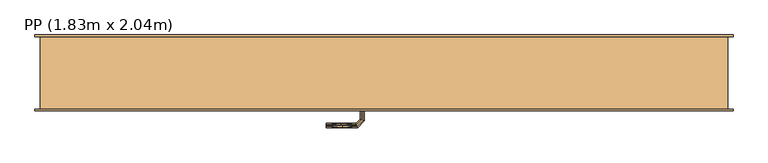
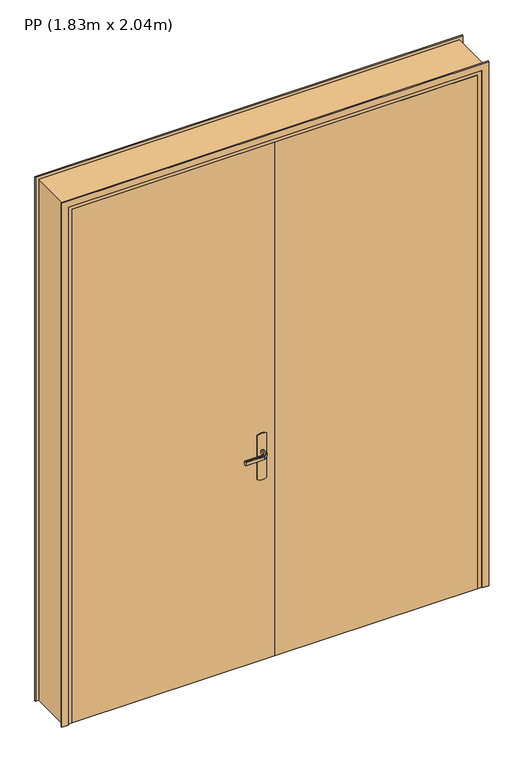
"""IFC4 building model written with IfcOpenShell, lengths in millimetres: door geometry, PP (1.83m x 2.04m)."""

from ifc_helpers import new_model, si_unit, frame, origin, origin_with_axes, place, context, project, spatial, polyline, outline, extrude, faceted_brep, source, transform, mapped, element, save


def pp_1_83m_x_2_04m_7ef19891(model_context):
    return source(origin(), model_context, "Body", "SolidModel", [
        extrude(outline(polyline([(0.0, 1985.0), (2500.0, 1985.0), (2500.0, 55.0), (0.0, 55.0), (0.0, 85.0), (2470.0, 85.0), (2470.0, 1955.0), (0.0, 1955.0), (0.0, 1985.0)])), frame((0.0, -5.0, 0.0), z_axis=(0.0, 1.0, 0.0), x_axis=(0.0, 0.0, 1.0)), (0.0, 0.0, 1.0), 5.0),
        extrude(outline(polyline([(870.0, 980.0), (1080.0, 980.0), (1083.9960169, 970.3527618), (1085.3589838, 960.0), (1083.9960169, 949.6472382), (1080.0, 940.0), (870.0, 940.0), (866.0039831, 949.6472382), (864.6410162, 960.0), (866.0039831, 970.3527618), (870.0, 980.0)])), frame((0.0, 40.0, 0.0), z_axis=(0.0, 1.0, 0.0), x_axis=(0.0, 0.0, 1.0)), (0.0, 0.0, 1.0), 5.0),
        extrude(outline(polyline([(0.0, 1985.0), (2500.0, 1985.0), (2500.0, 55.0), (0.0, 55.0), (0.0, 85.0), (2470.0, 85.0), (2470.0, 1955.0), (0.0, 1955.0), (0.0, 1985.0)])), frame((0.0, 200.0, 0.0), z_axis=(0.0, 1.0, 0.0), x_axis=(0.0, 0.0, 1.0)), (0.0, 0.0, 1.0), 5.0),
        extrude(outline(polyline([(870.0, 980.0), (1080.0, 980.0), (1083.9960169, 970.3527618), (1085.3589838, 960.0), (1083.9960169, 949.6472382), (1080.0, 940.0), (870.0, 940.0), (866.0039831, 949.6472382), (864.6410162, 960.0), (866.0039831, 970.3527618), (870.0, 980.0)])), frame((0.0, -5.0, 0.0), z_axis=(0.0, 1.0, 0.0), x_axis=(0.0, 0.0, 1.0)), (0.0, 0.0, 1.0), 5.0),
        faceted_brep([(957.9747013, -5.0, 1007.7804408), (962.0252987, -5.0, 1007.7804408), (966.0, -5.0, 1007.0), (966.0, -5.0, 993.0), (962.0252987, -5.0, 992.2195592), (957.9747013, -5.0, 992.2195592), (954.0, -5.0, 993.0), (954.0, -5.0, 1007.0), (962.0252987, -31.0045755, 1007.7804408), (966.0, -32.6509507, 1007.0), (957.9747013, -29.3267632, 1007.7804408), (944.2986025, -43.002862, 1007.7804408), (945.9764148, -47.0534593, 1007.7804408), (954.0, -27.680388, 1007.0), (954.0, -27.680388, 993.0), (957.9747013, -29.3267632, 992.2195592), (962.0252987, -31.0045755, 992.2195592), (945.9764148, -47.0534593, 992.2195592), (944.2986025, -43.002862, 992.2195592), (966.0, -32.6509507, 993.0), (947.62279, -51.0281607, 1007.0), (942.6522273, -39.0281607, 1007.0), (942.6522273, -39.0281607, 993.0), (947.62279, -51.0281607, 993.0), (859.9813594, -51.0281607, 1007.0), (859.9813594, -47.0534593, 1007.7804408), (859.9813594, -43.002862, 1007.7804408), (859.9813594, -39.0281607, 1007.0), (859.9813594, -39.0281607, 993.0), (859.9813594, -43.002862, 992.2195592), (859.9813594, -47.0534593, 992.2195592), (859.9813594, -51.0281607, 993.0), (902.1399809, -45.0281607, 1007.8786868), (907.6923028, -51.0281607, 1007.0), (901.3167933, -39.0281607, 1007.0), (901.3167933, -39.0281607, 993.0), (902.1399811, -45.0281608, 992.1213132), (907.6923104, -51.0281607, 993.0)], [[[0, 1, 2, 3, 4, 5, 6, 7]], [[2, 1, 8, 9]], [[1, 0, 10, 11, 12, 8]], [[0, 7, 13, 10]], [[14, 13, 7, 6]], [[5, 15, 14, 6]], [[5, 4, 16, 17, 18, 15]], [[3, 19, 16, 4]], [[9, 19, 3, 2]], [[9, 8, 12, 20]], [[10, 13, 21, 11]], [[22, 21, 13, 14]], [[14, 15, 18, 22]], [[16, 19, 23, 17]], [[20, 23, 19, 9]], [[24, 25, 26, 27, 28, 29, 30, 31]], [[32, 25, 33]], [[33, 25, 24]], [[33, 20, 12]], [[11, 34, 32]], [[34, 11, 21]], [[27, 26, 34]], [[32, 26, 25]], [[32, 34, 26]], [[32, 33, 12]], [[11, 32, 12]], [[21, 22, 35, 28, 27, 34]], [[36, 29, 35]], [[30, 36, 37]], [[18, 35, 22]], [[29, 28, 35]], [[30, 37, 31]], [[37, 17, 23]], [[36, 17, 37]], [[36, 18, 17]], [[36, 35, 18]], [[29, 36, 30]], [[23, 20, 33, 24, 31, 37]]]),
        extrude(outline(polyline([(1020.0, 40.0), (1020.0, 0.0), (105.0, 0.0), (105.0, 40.0), (1020.0, 40.0)])), origin_with_axes(), (0.0, 0.0, 1.0), 2450.0),
        extrude(outline(polyline([(1020.0, 40.0), (1935.0, 40.0), (1935.0, 0.0), (1020.0, 0.0), (1020.0, 40.0)])), origin_with_axes(), (0.0, 0.0, 1.0), 2450.0),
        faceted_brep([(957.9747013, 45.0, 992.2195592), (962.0252987, 45.0, 992.2195592), (966.0, 45.0, 993.0), (966.0, 45.0, 1007.0), (962.0252987, 45.0, 1007.7804408), (957.9747013, 45.0, 1007.7804408), (954.0, 45.0, 1007.0), (954.0, 45.0, 993.0), (954.0, 67.4852045, 1007.0), (954.0, 67.4852045, 993.0), (957.9747013, 69.1315797, 1007.7804408), (962.0252987, 70.8093921, 1007.7804408), (945.8389062, 86.9957845, 1007.7804408), (944.1610938, 82.9451872, 1007.7804408), (966.0, 72.4557673, 1007.0), (966.0, 72.4557673, 993.0), (962.0252987, 70.8093921, 992.2195592), (957.9747013, 69.1315797, 992.2195592), (944.1610938, 82.9451872, 992.2195592), (945.8389062, 86.9957845, 992.2195592), (942.5147186, 78.9704859, 1007.0), (942.5147186, 78.9704859, 993.0), (947.4852814, 90.9704859, 1007.0), (947.4852814, 90.9704859, 993.0), (859.9542163, 82.9451872, 1007.7804408), (859.9542163, 86.9957845, 1007.7804408), (859.9542163, 90.9704859, 1007.0), (859.9542163, 90.9704859, 993.0), (859.9542163, 86.9957845, 992.2195592), (859.9542163, 82.9451872, 992.2195592), (859.9542163, 78.9704859, 993.0), (859.9542163, 78.9704859, 1007.0), (901.2344675, 78.9704859, 1007.0), (901.2344794, 78.9704859, 993.0), (902.0576551, 84.9704859, 1007.8786868), (907.5547942, 90.9704859, 1007.0), (907.5547957, 90.9704859, 993.0), (902.0576549, 84.9704858, 992.1213132)], [[[0, 1, 2, 3, 4, 5, 6, 7]], [[8, 9, 7, 6]], [[5, 10, 8, 6]], [[5, 4, 11, 12, 13, 10]], [[3, 14, 11, 4]], [[14, 3, 2, 15]], [[2, 1, 16, 15]], [[1, 0, 17, 18, 19, 16]], [[0, 7, 9, 17]], [[20, 21, 9, 8]], [[8, 10, 13, 20]], [[14, 22, 12, 11]], [[23, 22, 14, 15]], [[15, 16, 19, 23]], [[17, 9, 21, 18]], [[24, 25, 26, 27, 28, 29, 30, 31]], [[21, 20, 32, 31, 30, 33]], [[34, 24, 32]], [[25, 34, 35]], [[13, 32, 20]], [[24, 31, 32]], [[25, 35, 26]], [[35, 12, 22]], [[34, 12, 35]], [[34, 13, 12]], [[34, 32, 13]], [[24, 34, 25]], [[22, 23, 36, 27, 26, 35]], [[37, 28, 36]], [[36, 28, 27]], [[36, 23, 19]], [[18, 33, 37]], [[33, 18, 21]], [[30, 29, 33]], [[37, 29, 28]], [[37, 33, 29]], [[37, 36, 19]], [[18, 37, 19]]]),
        faceted_brep([(1970.0, 0.0, 0.0), (1935.0, 0.0, 0.0), (1935.0, 40.0, 0.0), (1920.0, 40.0, 0.0), (1920.0, 200.0, 0.0), (1970.0, 200.0, 0.0), (1970.0, 200.0, 2485.0), (1970.0, 0.0, 2485.0), (1920.0, 200.0, 2435.0), (120.0, 200.0, 2435.0), (120.0, 200.0, 0.0), (70.0, 200.0, 0.0), (70.0, 200.0, 2485.0), (1920.0, 40.0, 2435.0), (1935.0, 40.0, 2450.0), (105.0, 40.0, 2450.0), (105.0, 40.0, 0.0), (120.0, 40.0, 0.0), (120.0, 40.0, 2435.0), (1935.0, 0.0, 2450.0), (70.0, 0.0, 2485.0), (70.0, 0.0, 0.0), (105.0, 0.0, 0.0), (105.0, 0.0, 2450.0)], [[[0, 1, 2, 3, 4, 5]], [[5, 6, 7, 0]], [[4, 8, 9, 10, 11, 12, 6, 5]], [[3, 13, 8, 4]], [[2, 14, 15, 16, 17, 18, 13, 3]], [[1, 19, 14, 2]], [[0, 7, 20, 21, 22, 23, 19, 1]], [[12, 11, 21, 20]], [[21, 11, 10, 17, 16, 22]], [[18, 17, 10, 9]], [[23, 22, 16, 15]], [[6, 12, 20, 7]], [[13, 18, 9, 8]], [[19, 23, 15, 14]]]),
    ])


if __name__ == "__main__":
    model = new_model("IFC4")
    model_context = context("Model", 3, world=origin())
    ifc_project = project(units=[si_unit("LENGTHUNIT", "METRE", prefix="MILLI")], contexts=[model_context])
    site = spatial("IfcSite", under=ifc_project)
    building = spatial("IfcBuilding", under=site)
    placement = place(None, origin())
    pp_1_83m_x_2_04m_shape = pp_1_83m_x_2_04m_7ef19891(model_context)
    element("IfcDoor", 1, ObjectType="PP (1.83m x 2.04m)", at=placement, inside=building, context=model_context, shape_type="MappedRepresentation", body=[
        mapped(pp_1_83m_x_2_04m_shape, transform((0.0, 0.0, 0.0), x_axis=(1.0, 0.0, 0.0), y_axis=(0.0, 1.0, 0.0), z_axis=(0.0, 0.0, 1.0))),
    ])
    save(model, "model.ifc")
